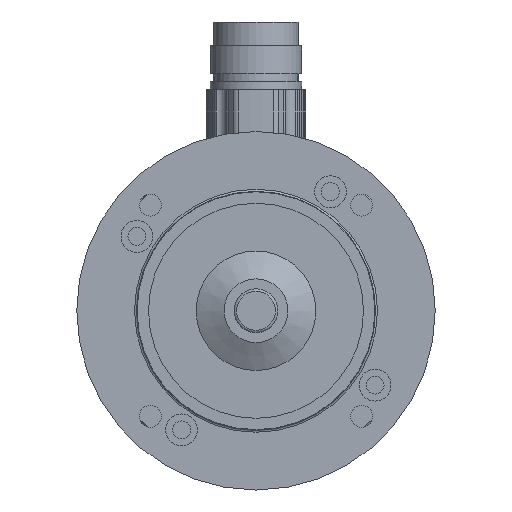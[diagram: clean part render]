
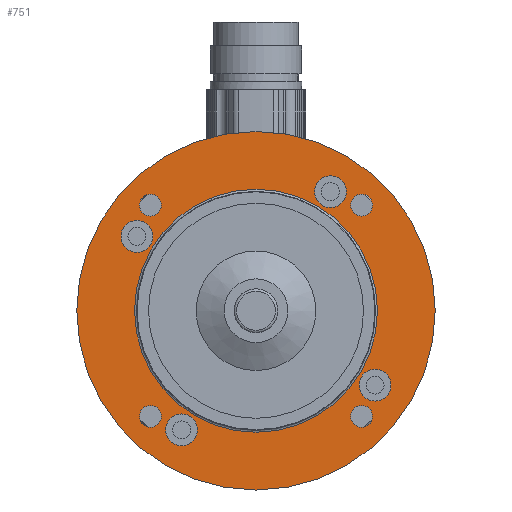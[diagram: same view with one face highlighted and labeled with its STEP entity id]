
A CAD part, front view. The second image highlights one B-rep face of the part: STEP entity #751.
In plain terms, the highlighted planar face has unit normal (0, -1, 0) as drawn and (0, 0, 1) by its records, which use the part's own axes.
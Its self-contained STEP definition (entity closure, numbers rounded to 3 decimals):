
#349=PLANE('',#4622);
#445=FACE_BOUND('',#1413,.T.);
#446=FACE_BOUND('',#1414,.T.);
#447=FACE_BOUND('',#1415,.T.);
#448=FACE_BOUND('',#1416,.T.);
#449=FACE_BOUND('',#1417,.T.);
#450=FACE_BOUND('',#1418,.T.);
#451=FACE_BOUND('',#1419,.T.);
#452=FACE_BOUND('',#1420,.T.);
#453=FACE_BOUND('',#1421,.T.);
#751=ADVANCED_FACE('',(#445,#446,#447,#448,#449,#450,#451,#452,#453,#1206),
#349,.T.);
#1206=FACE_OUTER_BOUND('',#1422,.T.);
#1413=EDGE_LOOP('',(#2260));
#1414=EDGE_LOOP('',(#2261));
#1415=EDGE_LOOP('',(#2262));
#1416=EDGE_LOOP('',(#2263));
#1417=EDGE_LOOP('',(#2264));
#1418=EDGE_LOOP('',(#2265));
#1419=EDGE_LOOP('',(#2266));
#1420=EDGE_LOOP('',(#2267));
#1421=EDGE_LOOP('',(#2268));
#1422=EDGE_LOOP('',(#2269));
#2260=ORIENTED_EDGE('',*,*,#3727,.T.);
#2261=ORIENTED_EDGE('',*,*,#3728,.T.);
#2262=ORIENTED_EDGE('',*,*,#3729,.T.);
#2263=ORIENTED_EDGE('',*,*,#3730,.T.);
#2264=ORIENTED_EDGE('',*,*,#3731,.T.);
#2265=ORIENTED_EDGE('',*,*,#3732,.F.);
#2266=ORIENTED_EDGE('',*,*,#3733,.F.);
#2267=ORIENTED_EDGE('',*,*,#3734,.F.);
#2268=ORIENTED_EDGE('',*,*,#3735,.F.);
#2269=ORIENTED_EDGE('',*,*,#3736,.F.);
#3312=VERTEX_POINT('',#6803);
#3313=VERTEX_POINT('',#6805);
#3314=VERTEX_POINT('',#6807);
#3315=VERTEX_POINT('',#6809);
#3316=VERTEX_POINT('',#6811);
#3317=VERTEX_POINT('',#6813);
#3318=VERTEX_POINT('',#6815);
#3319=VERTEX_POINT('',#6817);
#3320=VERTEX_POINT('',#6819);
#3321=VERTEX_POINT('',#6821);
#3727=EDGE_CURVE('',#3312,#3312,#4247,.T.);
#3728=EDGE_CURVE('',#3313,#3313,#4248,.T.);
#3729=EDGE_CURVE('',#3314,#3314,#4249,.T.);
#3730=EDGE_CURVE('',#3315,#3315,#4250,.T.);
#3731=EDGE_CURVE('',#3316,#3316,#4251,.T.);
#3732=EDGE_CURVE('',#3317,#3317,#4252,.T.);
#3733=EDGE_CURVE('',#3318,#3318,#4253,.T.);
#3734=EDGE_CURVE('',#3319,#3319,#4254,.T.);
#3735=EDGE_CURVE('',#3320,#3320,#4255,.T.);
#3736=EDGE_CURVE('',#3321,#3321,#4256,.T.);
#4247=CIRCLE('',#4612,30.5);
#4248=CIRCLE('',#4613,4.);
#4249=CIRCLE('',#4614,4.);
#4250=CIRCLE('',#4615,4.);
#4251=CIRCLE('',#4616,4.);
#4252=CIRCLE('',#4617,2.75);
#4253=CIRCLE('',#4618,2.75);
#4254=CIRCLE('',#4619,2.75);
#4255=CIRCLE('',#4620,2.75);
#4256=CIRCLE('',#4621,45.);
#4612=AXIS2_PLACEMENT_3D('',#6802,#5299,#5300);
#4613=AXIS2_PLACEMENT_3D('',#6804,#5301,#5302);
#4614=AXIS2_PLACEMENT_3D('',#6806,#5303,#5304);
#4615=AXIS2_PLACEMENT_3D('',#6808,#5305,#5306);
#4616=AXIS2_PLACEMENT_3D('',#6810,#5307,#5308);
#4617=AXIS2_PLACEMENT_3D('',#6812,#5309,#5310);
#4618=AXIS2_PLACEMENT_3D('',#6814,#5311,#5312);
#4619=AXIS2_PLACEMENT_3D('',#6816,#5313,#5314);
#4620=AXIS2_PLACEMENT_3D('',#6818,#5315,#5316);
#4621=AXIS2_PLACEMENT_3D('',#6820,#5317,#5318);
#4622=AXIS2_PLACEMENT_3D('',#6822,#5319,#5320);
#5299=DIRECTION('',(0.,0.,-1.));
#5300=DIRECTION('',(1.,0.,0.));
#5301=DIRECTION('',(0.,0.,-1.));
#5302=DIRECTION('',(0.,-1.,0.));
#5303=DIRECTION('',(0.,0.,-1.));
#5304=DIRECTION('',(1.,0.,0.));
#5305=DIRECTION('',(0.,0.,-1.));
#5306=DIRECTION('',(0.,1.,0.));
#5307=DIRECTION('',(0.,0.,-1.));
#5308=DIRECTION('',(-1.,0.,0.));
#5309=DIRECTION('',(0.,0.,1.));
#5310=DIRECTION('',(1.,0.,0.));
#5311=DIRECTION('',(0.,0.,1.));
#5312=DIRECTION('',(1.,0.,0.));
#5313=DIRECTION('',(0.,0.,1.));
#5314=DIRECTION('',(1.,0.,0.));
#5315=DIRECTION('',(0.,0.,1.));
#5316=DIRECTION('',(1.,0.,0.));
#5317=DIRECTION('',(0.,0.,-1.));
#5318=DIRECTION('',(-1.,0.,0.));
#5319=DIRECTION('',(0.,0.,1.));
#5320=DIRECTION('',(1.,0.,0.));
#6802=CARTESIAN_POINT('',(0.,0.,8.));
#6803=CARTESIAN_POINT('',(30.5,0.,8.));
#6804=CARTESIAN_POINT('',(18.68,29.894,8.));
#6805=CARTESIAN_POINT('',(18.68,25.894,8.));
#6806=CARTESIAN_POINT('',(-29.894,18.68,8.));
#6807=CARTESIAN_POINT('',(-25.894,18.68,8.));
#6808=CARTESIAN_POINT('',(-18.68,-29.894,8.));
#6809=CARTESIAN_POINT('',(-18.68,-25.894,8.));
#6810=CARTESIAN_POINT('',(29.894,-18.68,8.));
#6811=CARTESIAN_POINT('',(25.894,-18.68,8.));
#6812=CARTESIAN_POINT('',(26.517,26.517,8.));
#6813=CARTESIAN_POINT('',(29.267,26.517,8.));
#6814=CARTESIAN_POINT('',(-26.517,26.517,8.));
#6815=CARTESIAN_POINT('',(-23.767,26.517,8.));
#6816=CARTESIAN_POINT('',(-26.517,-26.517,8.));
#6817=CARTESIAN_POINT('',(-23.767,-26.517,8.));
#6818=CARTESIAN_POINT('',(26.517,-26.517,8.));
#6819=CARTESIAN_POINT('',(29.267,-26.517,8.));
#6820=CARTESIAN_POINT('',(0.,0.,8.));
#6821=CARTESIAN_POINT('',(-45.,0.,8.));
#6822=CARTESIAN_POINT('',(0.,0.,8.));
